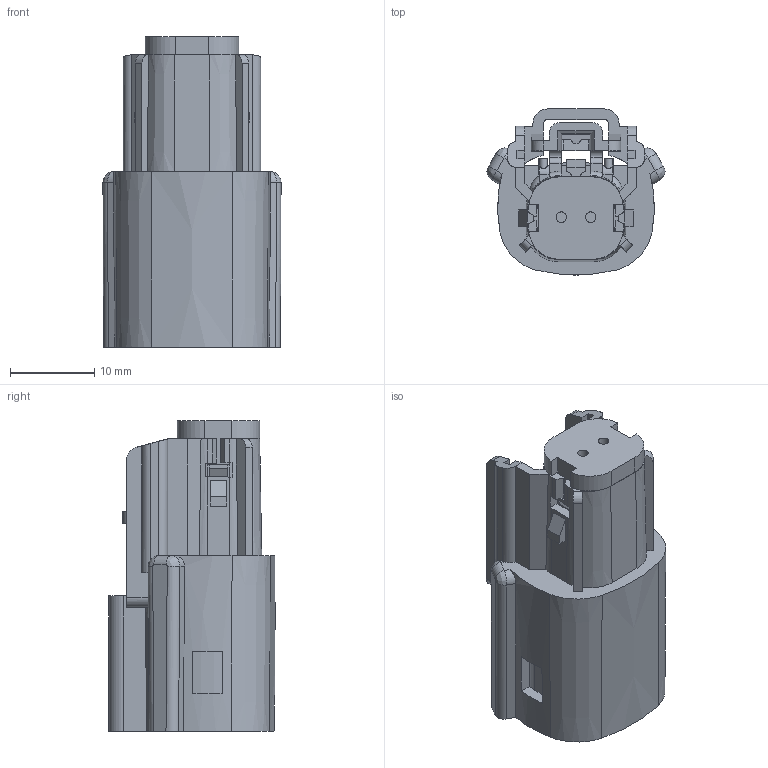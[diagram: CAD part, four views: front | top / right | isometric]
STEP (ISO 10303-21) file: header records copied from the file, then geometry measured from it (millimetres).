
FILE_DESCRIPTION((''),'2;1');
FILE_NAME('334710201','2019-11-22T',('gga'),(''),'PRO/ENGINEER BY PARAMETRIC TECHNOLOGY CORPORATION, 2016010','PRO/ENGINEER BY PARAMETRIC TECHNOLOGY CORPORATION, 2016010','');
FILE_SCHEMA(('CONFIG_CONTROL_DESIGN'));
Length unit declared in the file: millimetre
Products named in the file (1): 334710201
Bounding box: 21.2 x 19.77 x 36.95 mm (x, y, z)
Volume: 5947.8 mm3; surface area: 6735.2 mm2
Topology: 1 solids, 1 shells, 578 faces, 1657 edges, 1072 vertices
Faces by surface type: plane 363, cylinder 100, cone 91, torus 16, bspline 8
Entity records: 19663 total; most frequent: CARTESIAN_POINT 4842, ORIENTED_EDGE 3314, DIRECTION 2803, EDGE_CURVE 1657, VECTOR 1073, LINE 1073, VERTEX_POINT 1072, AXIS2_PLACEMENT_3D 865
